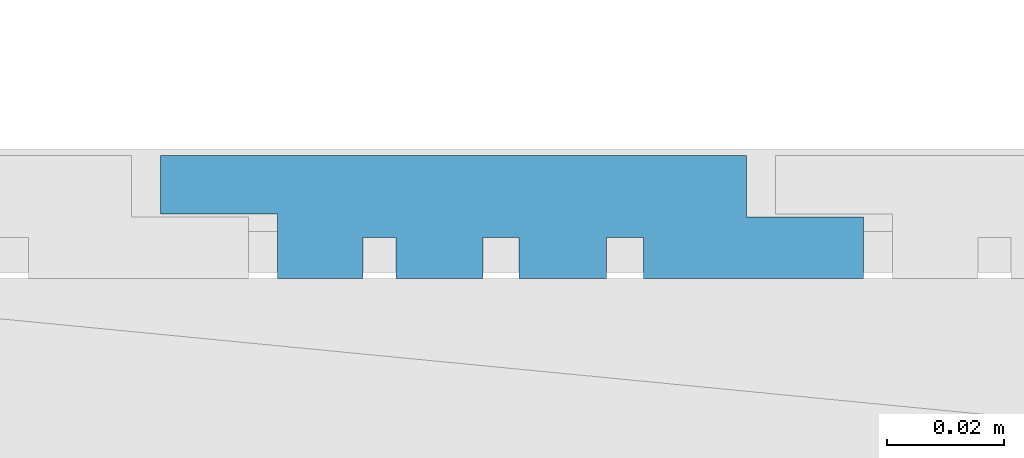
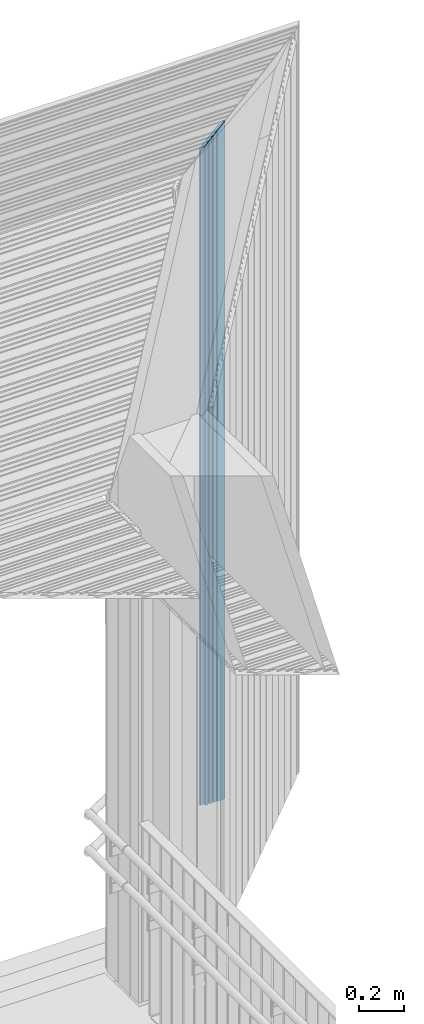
# One storey, part 143 of 418: 1 building element part, 1 element without a shape of its own.
"""IFC2X3 building model written with IfcOpenShell, lengths in millimetres."""

from ifc_helpers import new_model, entity, si_unit, converted_unit, derived_unit, money_unit, direction, frame, origin_with_axes, place, context, subcontext, project, spatial, polyline, outline, extrude, boolean, faceted_brep, material, type_object, element, aggregate, save


model = new_model("IFC2X3")

# Units and contexts
model_context = context("Model", 3, precision=0.01, world=origin_with_axes(), true_north=direction((0.0, 1.0)))
body_context = subcontext(model_context, "Body", "Model", "MODEL_VIEW")
ifc_project = project(units=[si_unit("LENGTHUNIT", "METRE", prefix="MILLI"), si_unit("AREAUNIT", "SQUARE_METRE"), si_unit("VOLUMEUNIT", "CUBIC_METRE"), converted_unit("PLANEANGLEUNIT", "DEGREE", entity("IfcPlaneAngleMeasure", 0.0174532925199), si_unit("PLANEANGLEUNIT", "RADIAN"), dimensions=[0, 0, 0, 0, 0, 0, 0]), si_unit("SOLIDANGLEUNIT", "STERADIAN"), money_unit("EUR"), converted_unit("TIMEUNIT", "Year", entity("IfcTimeMeasure", 31556926.0), si_unit("TIMEUNIT", "SECOND"), dimensions=[0, 0, 1, 0, 0, 0, 0]), si_unit("MASSUNIT", "GRAM", prefix="KILO"), si_unit("THERMODYNAMICTEMPERATUREUNIT", "DEGREE_CELSIUS"), si_unit("LUMINOUSINTENSITYUNIT", "LUMEN"), si_unit("ENERGYUNIT", "JOULE", prefix="MEGA"), derived_unit("THERMALCONDUCTANCEUNIT", [(si_unit("POWERUNIT", "WATT"), 1), (si_unit("LENGTHUNIT", "METRE"), -1), (si_unit("THERMODYNAMICTEMPERATUREUNIT", "KELVIN"), -1)]), derived_unit("SPECIFICHEATCAPACITYUNIT", [(si_unit("ENERGYUNIT", "JOULE"), 1), (si_unit("MASSUNIT", "GRAM", prefix="KILO"), -1), (si_unit("THERMODYNAMICTEMPERATUREUNIT", "KELVIN"), -1)]), derived_unit("MASSDENSITYUNIT", [(si_unit("MASSUNIT", "GRAM", prefix="KILO"), 1), (si_unit("VOLUMEUNIT", "CUBIC_METRE"), -1)])], contexts=[model_context])

# Site, building, storey
site_placement = place(None, origin_with_axes())
site = spatial("IfcSite", under=ifc_project, at=site_placement, Name="Paldiski mnt 245/1, Tallinn, Harjumaa", CompositionType="COMPLEX")
building_placement = place(site_placement, origin_with_axes())
building = spatial("IfcBuilding", under=site, at=building_placement, Name="RKAS Hoone üldnimetus (kasutust iseloomustav) -> IFC Project Manager -> SOLIBRI", CompositionType="ELEMENT")
storey_placement = place(building_placement, origin_with_axes())
storey = spatial("IfcBuildingStorey", under=building, at=storey_placement, Name="Esimene korrus", CompositionType="ELEMENT", Elevation=0.0)

# Proxy, building element part
building_element_proxy_type = type_object("IfcBuildingElementProxyType", Name="Laudis esiprofiil_01 21 x 622", PredefinedType="NOTDEFINED")
proxy_placement = place(storey_placement, frame((-46724.4601459, 39788.252735, 0.0), z_axis=(0.0, 0.0, 1.0), x_axis=(0.0, -1.0, 0.0)))
proxy = element("IfcBuildingElementProxy", 1, at=proxy_placement, inside=storey, type_object=building_element_proxy_type, Name="Varikatus")
ifc_material = material(Name="Laudis 5072 Honka 45 horisontaalne raastas")
building_element_part_placement = place(proxy_placement, origin_with_axes())
building_element_part = element("IfcBuildingElementPart", 2, at=building_element_part_placement, material=ifc_material, Name="Laudis 5072 Honka 45 horisontaalne raastas", context=body_context, shape_type="CSG", body=[
    boolean("DIFFERENCE", boolean("DIFFERENCE", boolean("DIFFERENCE", boolean("DIFFERENCE", boolean("DIFFERENCE", boolean("DIFFERENCE", extrude(outline(polyline([(3.20348192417e-08, -415.971430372), (-10.5000010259, -415.971430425), (-10.5000005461, -395.971429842), (-20.9999998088, -395.971430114), (-21.0000010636, -433.497524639), (-14.0000005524, -433.497525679), (-14.0000003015, -439.860022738), (-20.99999981, -439.860022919), (-20.9999998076, -454.79914009), (-14.0000002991, -454.799139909), (-14.0000007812, -460.926080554), (-21.0000002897, -460.926080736), (-21.0000013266, -475.754573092), (-14.0000008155, -475.754574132), (-14.0000015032, -481.395242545), (-21.0000010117, -481.395242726), (-21.0000007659, -495.971429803), (-10.000001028, -495.971430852), (-10.0000002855, -515.971430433), (-7.63172636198e-07, -515.971430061), (3.20348192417e-08, -415.971430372)])), frame((0.0, 0.0, 0.0), z_axis=(0.0, 0.0, -1.0), x_axis=(-1.0, 0.0, 0.0)), (0.0, 0.0, -1.0), 4086.15997799), faceted_brep([(20.9999998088, -395.971430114, 3689.02857107), (10.5000005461, -395.971429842, 3689.02857134), (10.5000005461, -395.971429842, 4086.15997799), (20.9999998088, -395.971430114, 4086.15997799), (10.5000010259, -415.971430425, 3669.02857076), (21.0000010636, -433.497524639, 3651.50247655), (14.0000005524, -433.497525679, 3651.50247551), (14.0000003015, -439.860022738, 3645.13997845), (20.99999981, -439.860022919, 3645.13997827), (20.9999998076, -454.79914009, 3630.20086109), (14.0000002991, -454.799139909, 3630.20086128), (14.0000007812, -460.926080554, 3624.07392063), (21.0000002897, -460.926080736, 3624.07392045), (21.0000013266, -475.754573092, 3609.24542809), (14.0000008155, -475.754574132, 3609.24542705), (14.0000015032, -481.395242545, 3603.60475864), (21.0000010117, -481.395242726, 3603.60475846), (21.0000007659, -495.971429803, 3589.02857138), (10.000001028, -495.971430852, 3589.02857033), (10.0000002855, -515.971430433, 3569.02857075), (7.6316553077e-07, -515.971430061, 3569.02857112), (-3.20383719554e-08, -415.971430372, 3669.02857081), (10.5000010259, -415.971430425, 4086.15997799), (-3.20383719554e-08, -415.971430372, 4086.15997799), (7.6316553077e-07, -515.971430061, 4086.15997799), (10.0000002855, -515.971430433, 4086.15997799), (10.000001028, -495.971430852, 4086.15997799), (21.0000007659, -495.971429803, 4086.15997799), (21.0000010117, -481.395242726, 4086.15997799), (14.0000015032, -481.395242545, 4086.15997799), (14.0000008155, -475.754574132, 4086.15997799), (21.0000013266, -475.754573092, 4086.15997799), (21.0000002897, -460.926080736, 4086.15997799), (14.0000007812, -460.926080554, 4086.15997799), (14.0000002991, -454.799139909, 4086.15997799), (20.9999998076, -454.79914009, 4086.15997799), (20.99999981, -439.860022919, 4086.15997799), (14.0000003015, -439.860022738, 4086.15997799), (14.0000005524, -433.497525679, 4086.15997799), (21.0000010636, -433.497524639, 4086.15997799)], [[[0, 1, 2, 3]], [[4, 1, 0, 5, 6, 7, 8, 9, 10, 11, 12, 13, 14, 15, 16, 17, 18, 19, 20, 21]], [[1, 4, 22, 2]], [[22, 23, 24, 25, 26, 27, 28, 29, 30, 31, 32, 33, 34, 35, 36, 37, 38, 39, 3, 2]], [[5, 0, 3, 39]], [[6, 5, 39, 38]], [[7, 6, 38, 37]], [[8, 7, 37, 36]], [[9, 8, 36, 35]], [[10, 9, 35, 34]], [[11, 10, 34, 33]], [[12, 11, 33, 32]], [[13, 12, 32, 31]], [[14, 13, 31, 30]], [[15, 14, 30, 29]], [[16, 15, 29, 28]], [[17, 16, 28, 27]], [[18, 17, 27, 26]], [[19, 18, 26, 25]], [[20, 19, 25, 24]], [[21, 20, 24, 23]], [[4, 21, 23, 22]]])), faceted_brep([(20.9999998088, -500.971430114, 3584.02857107), (10.5000005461, -500.971429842, 3584.02857134), (10.5000005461, -500.971429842, 4086.15997799), (20.9999998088, -500.971430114, 4086.15997799), (10.5000010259, -520.971430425, 3564.02857076), (21.0000010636, -538.497524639, 3546.50247655), (14.0000005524, -538.497525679, 3546.50247551), (14.0000003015, -544.860022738, 3540.13997845), (20.99999981, -544.860022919, 3540.13997827), (20.9999998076, -559.79914009, 3525.20086109), (14.0000002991, -559.799139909, 3525.20086128), (14.0000007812, -565.926080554, 3519.07392063), (21.0000002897, -565.926080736, 3519.07392045), (21.0000013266, -580.754573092, 3504.24542809), (14.0000008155, -580.754574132, 3504.24542705), (14.0000015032, -586.395242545, 3498.60475864), (21.0000010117, -586.395242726, 3498.60475846), (21.0000007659, -600.971429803, 3484.02857138), (10.000001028, -600.971430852, 3484.02857033), (10.0000002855, -620.971430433, 3464.02857075), (7.63172636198e-07, -620.971430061, 3464.02857112), (-3.20383719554e-08, -520.971430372, 3564.02857081), (10.5000010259, -520.971430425, 4086.15997799), (-3.20383719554e-08, -520.971430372, 4086.15997799), (7.63172636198e-07, -620.971430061, 4086.15997799), (10.0000002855, -620.971430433, 4086.15997799), (10.000001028, -600.971430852, 4086.15997799), (21.0000007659, -600.971429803, 4086.15997799), (21.0000010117, -586.395242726, 4086.15997799), (14.0000015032, -586.395242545, 4086.15997799), (14.0000008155, -580.754574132, 4086.15997799), (21.0000013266, -580.754573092, 4086.15997799), (21.0000002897, -565.926080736, 4086.15997799), (14.0000007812, -565.926080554, 4086.15997799), (14.0000002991, -559.799139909, 4086.15997799), (20.9999998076, -559.79914009, 4086.15997799), (20.99999981, -544.860022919, 4086.15997799), (14.0000003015, -544.860022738, 4086.15997799), (14.0000005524, -538.497525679, 4086.15997799), (21.0000010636, -538.497524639, 4086.15997799)], [[[0, 1, 2, 3]], [[4, 1, 0, 5, 6, 7, 8, 9, 10, 11, 12, 13, 14, 15, 16, 17, 18, 19, 20, 21]], [[1, 4, 22, 2]], [[22, 23, 24, 25, 26, 27, 28, 29, 30, 31, 32, 33, 34, 35, 36, 37, 38, 39, 3, 2]], [[5, 0, 3, 39]], [[6, 5, 39, 38]], [[7, 6, 38, 37]], [[8, 7, 37, 36]], [[9, 8, 36, 35]], [[10, 9, 35, 34]], [[11, 10, 34, 33]], [[12, 11, 33, 32]], [[13, 12, 32, 31]], [[14, 13, 31, 30]], [[15, 14, 30, 29]], [[16, 15, 29, 28]], [[17, 16, 28, 27]], [[18, 17, 27, 26]], [[19, 18, 26, 25]], [[20, 19, 25, 24]], [[21, 20, 24, 23]], [[4, 21, 23, 22]]])), faceted_brep([(20.9999998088, -185.971430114, 3899.02857107), (10.5000005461, -185.971429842, 3899.02857134), (10.5000005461, -185.971429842, 4086.15997799), (20.9999998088, -185.971430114, 4086.15997799), (10.5000010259, -205.971430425, 3879.02857076), (21.0000010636, -223.497524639, 3861.50247655), (14.0000005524, -223.497525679, 3861.50247551), (14.0000003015, -229.860022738, 3855.13997845), (20.99999981, -229.860022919, 3855.13997827), (20.9999998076, -244.79914009, 3840.20086109), (14.0000002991, -244.799139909, 3840.20086128), (14.0000007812, -250.926080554, 3834.07392063), (21.0000002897, -250.926080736, 3834.07392045), (21.0000013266, -265.754573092, 3819.24542809), (14.0000008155, -265.754574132, 3819.24542705), (14.0000015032, -271.395242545, 3813.60475864), (21.0000010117, -271.395242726, 3813.60475846), (21.0000007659, -285.971429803, 3799.02857138), (10.000001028, -285.971430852, 3799.02857033), (10.0000002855, -305.971430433, 3779.02857075), (7.63172636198e-07, -305.971430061, 3779.02857112), (-3.20383719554e-08, -205.971430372, 3879.02857081), (10.5000010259, -205.971430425, 4086.15997799), (-3.20383719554e-08, -205.971430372, 4086.15997799), (7.63172636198e-07, -305.971430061, 4086.15997799), (10.0000002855, -305.971430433, 4086.15997799), (10.000001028, -285.971430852, 4086.15997799), (21.0000007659, -285.971429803, 4086.15997799), (21.0000010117, -271.395242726, 4086.15997799), (14.0000015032, -271.395242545, 4086.15997799), (14.0000008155, -265.754574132, 4086.15997799), (21.0000013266, -265.754573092, 4086.15997799), (21.0000002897, -250.926080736, 4086.15997799), (14.0000007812, -250.926080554, 4086.15997799), (14.0000002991, -244.799139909, 4086.15997799), (20.9999998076, -244.79914009, 4086.15997799), (20.99999981, -229.860022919, 4086.15997799), (14.0000003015, -229.860022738, 4086.15997799), (14.0000005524, -223.497525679, 4086.15997799), (21.0000010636, -223.497524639, 4086.15997799)], [[[0, 1, 2, 3]], [[4, 1, 0, 5, 6, 7, 8, 9, 10, 11, 12, 13, 14, 15, 16, 17, 18, 19, 20, 21]], [[1, 4, 22, 2]], [[22, 23, 24, 25, 26, 27, 28, 29, 30, 31, 32, 33, 34, 35, 36, 37, 38, 39, 3, 2]], [[5, 0, 3, 39]], [[6, 5, 39, 38]], [[7, 6, 38, 37]], [[8, 7, 37, 36]], [[9, 8, 36, 35]], [[10, 9, 35, 34]], [[11, 10, 34, 33]], [[12, 11, 33, 32]], [[13, 12, 32, 31]], [[14, 13, 31, 30]], [[15, 14, 30, 29]], [[16, 15, 29, 28]], [[17, 16, 28, 27]], [[18, 17, 27, 26]], [[19, 18, 26, 25]], [[20, 19, 25, 24]], [[21, 20, 24, 23]], [[4, 21, 23, 22]]])), faceted_brep([(20.9999998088, -290.971430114, 3794.02857107), (10.5000005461, -290.971429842, 3794.02857134), (10.5000005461, -290.971429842, 4086.15997799), (20.9999998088, -290.971430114, 4086.15997799), (10.5000010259, -310.971430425, 3774.02857076), (21.0000010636, -328.497524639, 3756.50247655), (14.0000005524, -328.497525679, 3756.50247551), (14.0000003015, -334.860022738, 3750.13997845), (20.99999981, -334.860022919, 3750.13997827), (20.9999998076, -349.79914009, 3735.20086109), (14.0000002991, -349.799139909, 3735.20086128), (14.0000007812, -355.926080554, 3729.07392063), (21.0000002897, -355.926080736, 3729.07392045), (21.0000013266, -370.754573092, 3714.24542809), (14.0000008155, -370.754574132, 3714.24542705), (14.0000015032, -376.395242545, 3708.60475864), (21.0000010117, -376.395242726, 3708.60475846), (21.0000007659, -390.971429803, 3694.02857138), (10.000001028, -390.971430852, 3694.02857033), (10.0000002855, -410.971430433, 3674.02857075), (7.6316553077e-07, -410.971430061, 3674.02857112), (-3.20383719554e-08, -310.971430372, 3774.02857081), (10.5000010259, -310.971430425, 4086.15997799), (-3.20383719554e-08, -310.971430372, 4086.15997799), (7.6316553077e-07, -410.971430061, 4086.15997799), (10.0000002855, -410.971430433, 4086.15997799), (10.000001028, -390.971430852, 4086.15997799), (21.0000007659, -390.971429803, 4086.15997799), (21.0000010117, -376.395242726, 4086.15997799), (14.0000015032, -376.395242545, 4086.15997799), (14.0000008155, -370.754574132, 4086.15997799), (21.0000013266, -370.754573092, 4086.15997799), (21.0000002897, -355.926080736, 4086.15997799), (14.0000007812, -355.926080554, 4086.15997799), (14.0000002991, -349.799139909, 4086.15997799), (20.9999998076, -349.79914009, 4086.15997799), (20.99999981, -334.860022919, 4086.15997799), (14.0000003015, -334.860022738, 4086.15997799), (14.0000005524, -328.497525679, 4086.15997799), (21.0000010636, -328.497524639, 4086.15997799)], [[[0, 1, 2, 3]], [[4, 1, 0, 5, 6, 7, 8, 9, 10, 11, 12, 13, 14, 15, 16, 17, 18, 19, 20, 21]], [[1, 4, 22, 2]], [[22, 23, 24, 25, 26, 27, 28, 29, 30, 31, 32, 33, 34, 35, 36, 37, 38, 39, 3, 2]], [[5, 0, 3, 39]], [[6, 5, 39, 38]], [[7, 6, 38, 37]], [[8, 7, 37, 36]], [[9, 8, 36, 35]], [[10, 9, 35, 34]], [[11, 10, 34, 33]], [[12, 11, 33, 32]], [[13, 12, 32, 31]], [[14, 13, 31, 30]], [[15, 14, 30, 29]], [[16, 15, 29, 28]], [[17, 16, 28, 27]], [[18, 17, 27, 26]], [[19, 18, 26, 25]], [[20, 19, 25, 24]], [[21, 20, 24, 23]], [[4, 21, 23, 22]]])), faceted_brep([(14.0000008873, -12.860024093, 4072.13997709), (-8.29203372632e-09, 1.13997680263, 4086.13997799), (-8.29203372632e-09, 1.13997680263, 4086.15997799), (14.0000008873, -12.860024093, 4086.15997799), (1.4387921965e-06, -95.9714304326, 3989.02857075), (14.0000008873, -19.8600231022, 4065.13997808), (20.9999998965, -19.8600231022, 4065.13997808), (20.9999998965, -34.7991407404, 4050.20086044), (14.0000008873, -34.7991393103, 4050.20086187), (14.0000008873, -40.9260801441, 4044.07392104), (20.9999998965, -40.9260801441, 4044.07392104), (21.0000013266, -55.7545733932, 4029.24542779), (14.0000008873, -55.7545748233, 4029.24542636), (14.0000008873, -61.3952431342, 4023.60475805), (21.0000013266, -61.3952431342, 4023.60475805), (21.0000013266, -75.9714304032, 4009.02857078), (10.0000014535, -75.9714304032, 4009.02857078), (10.0000000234, -95.9714304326, 3989.02857075), (1.4387921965e-06, -95.9714304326, 4086.15997799), (14.0000008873, -55.7545748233, 4086.15997799), (21.0000013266, -55.7545733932, 4086.15997799), (20.9999998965, -40.9260801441, 4086.15997799), (14.0000008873, -40.9260801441, 4086.15997799), (14.0000008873, -34.7991393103, 4086.15997799), (20.9999998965, -34.7991407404, 4086.15997799), (20.9999998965, -19.8600231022, 4086.15997799), (14.0000008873, -19.8600231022, 4086.15997799), (10.0000000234, -95.9714304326, 4086.15997799), (10.0000014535, -75.9714304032, 4086.15997799), (21.0000013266, -75.9714304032, 4086.15997799), (21.0000013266, -61.3952431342, 4086.15997799), (14.0000008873, -61.3952431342, 4086.15997799)], [[[0, 1, 2, 3]], [[4, 1, 0, 5, 6, 7, 8, 9, 10, 11, 12, 13, 14, 15, 16, 17]], [[1, 4, 18, 2]], [[19, 20, 21, 22, 23, 24, 25, 26, 3, 2, 18, 27, 28, 29, 30, 31]], [[5, 0, 3, 26]], [[6, 5, 26, 25]], [[7, 6, 25, 24]], [[8, 7, 24, 23]], [[9, 8, 23, 22]], [[10, 9, 22, 21]], [[11, 10, 21, 20]], [[12, 11, 20, 19]], [[13, 12, 19, 31]], [[14, 13, 31, 30]], [[15, 14, 30, 29]], [[16, 15, 29, 28]], [[17, 16, 28, 27]], [[4, 17, 27, 18]]])), faceted_brep([(20.9999998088, -80.9714301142, 4004.02857107), (10.5000005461, -80.9714298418, 4004.02857134), (10.5000005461, -80.9714298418, 4086.15997799), (20.9999998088, -80.9714301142, 4086.15997799), (10.5000010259, -100.971430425, 3984.02857076), (21.0000010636, -118.497524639, 3966.50247655), (14.0000005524, -118.497525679, 3966.50247551), (14.0000003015, -124.860022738, 3960.13997845), (20.99999981, -124.860022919, 3960.13997827), (20.9999998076, -139.79914009, 3945.20086109), (14.0000002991, -139.799139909, 3945.20086128), (14.0000007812, -145.926080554, 3939.07392063), (21.0000002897, -145.926080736, 3939.07392045), (21.0000013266, -160.754573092, 3924.24542809), (14.0000008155, -160.754574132, 3924.24542705), (14.0000015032, -166.395242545, 3918.60475864), (21.0000010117, -166.395242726, 3918.60475846), (21.0000007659, -180.971429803, 3904.02857138), (10.000001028, -180.971430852, 3904.02857033), (10.0000002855, -200.971430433, 3884.02857075), (7.6316553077e-07, -200.971430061, 3884.02857112), (-3.20383719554e-08, -100.971430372, 3984.02857081), (10.5000010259, -100.971430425, 4086.15997799), (-3.20383719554e-08, -100.971430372, 4086.15997799), (7.6316553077e-07, -200.971430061, 4086.15997799), (10.0000002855, -200.971430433, 4086.15997799), (10.000001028, -180.971430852, 4086.15997799), (21.0000007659, -180.971429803, 4086.15997799), (21.0000010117, -166.395242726, 4086.15997799), (14.0000015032, -166.395242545, 4086.15997799), (14.0000008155, -160.754574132, 4086.15997799), (21.0000013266, -160.754573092, 4086.15997799), (21.0000002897, -145.926080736, 4086.15997799), (14.0000007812, -145.926080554, 4086.15997799), (14.0000002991, -139.799139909, 4086.15997799), (20.9999998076, -139.79914009, 4086.15997799), (20.99999981, -124.860022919, 4086.15997799), (14.0000003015, -124.860022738, 4086.15997799), (14.0000005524, -118.497525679, 4086.15997799), (21.0000010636, -118.497524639, 4086.15997799)], [[[0, 1, 2, 3]], [[4, 1, 0, 5, 6, 7, 8, 9, 10, 11, 12, 13, 14, 15, 16, 17, 18, 19, 20, 21]], [[1, 4, 22, 2]], [[22, 23, 24, 25, 26, 27, 28, 29, 30, 31, 32, 33, 34, 35, 36, 37, 38, 39, 3, 2]], [[5, 0, 3, 39]], [[6, 5, 39, 38]], [[7, 6, 38, 37]], [[8, 7, 37, 36]], [[9, 8, 36, 35]], [[10, 9, 35, 34]], [[11, 10, 34, 33]], [[12, 11, 33, 32]], [[13, 12, 32, 31]], [[14, 13, 31, 30]], [[15, 14, 30, 29]], [[16, 15, 29, 28]], [[17, 16, 28, 27]], [[18, 17, 27, 26]], [[19, 18, 26, 25]], [[20, 19, 25, 24]], [[21, 20, 24, 23]], [[4, 21, 23, 22]]])),
])
aggregate(proxy, [building_element_part])

save(model, "model.ifc")
